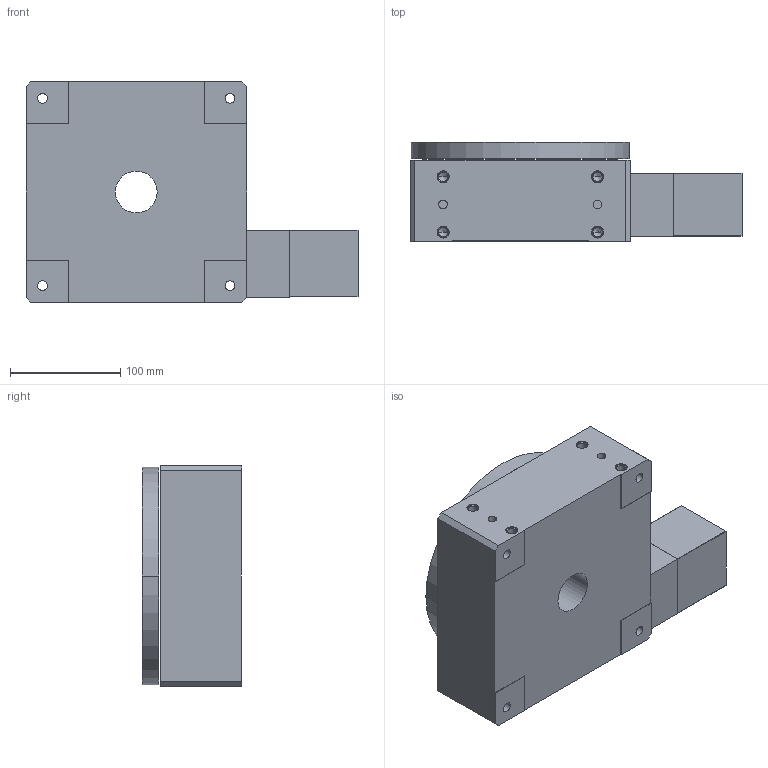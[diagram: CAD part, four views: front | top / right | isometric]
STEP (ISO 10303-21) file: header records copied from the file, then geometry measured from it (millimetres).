
FILE_DESCRIPTION((''),'2;1');
FILE_NAME('R200M7M23E0_ASM','2009-07-02T',('FK20128'),(''),'PRO/ENGINEER BY PARAMETRIC TECHNOLOGY CORPORATION, 2006200','PRO/ENGINEER BY PARAMETRIC TECHNOLOGY CORPORATION, 2006200','');
FILE_SCHEMA(('CONFIG_CONTROL_DESIGN'));
Length unit declared in the file: millimetre
Products named in the file (3): R200M; R200M-M23; R200M7M23E0_ASM
Assembly tree (2 placements, depth 2):
  R200M7M23E0_ASM
    R200M
    R200M-M23
Bounding box: 301.12 x 90 x 200 mm (x, y, z)
Volume: 3524097.4 mm3; surface area: 271157.7 mm2
Topology: 3 solids, 19 shells, 240 faces, 594 edges, 382 vertices
Faces by surface type: cylinder 126, plane 72, cone 42
Entity records: 7163 total; most frequent: DIRECTION 1366, CARTESIAN_POINT 1191, ORIENTED_EDGE 1060, EDGE_CURVE 562, AXIS2_PLACEMENT_3D 557, VERTEX_POINT 382, EDGE_LOOP 324, CIRCLE 310
